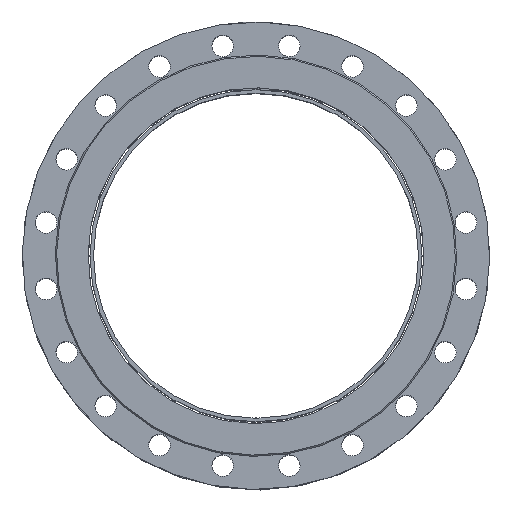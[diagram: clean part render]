
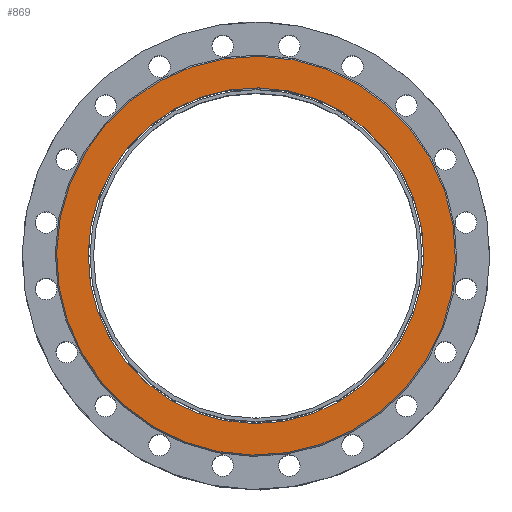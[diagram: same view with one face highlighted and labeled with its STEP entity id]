
A CAD part, top view. The second image highlights one B-rep face of the part: STEP entity #869.
In plain terms, the highlighted planar face has unit normal (0, 0, 1) as drawn and (0, 1, 0) by its records, which use the part's own axes.
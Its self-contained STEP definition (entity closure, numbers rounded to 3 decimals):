
#869 = ADVANCED_FACE( '', ( #1784, #1785 ), #1786, .F. );
#1784 = FACE_OUTER_BOUND( '', #4316, .T. );
#1785 = FACE_BOUND( '', #4317, .T. );
#1786 = PLANE( '', #4318 );
#4316 = EDGE_LOOP( '', ( #7787 ) );
#4317 = EDGE_LOOP( '', ( #7788 ) );
#4318 = AXIS2_PLACEMENT_3D( '', #7789, #7790, #7791 );
#7787 = ORIENTED_EDGE( '', *, *, #9650, .F. );
#7788 = ORIENTED_EDGE( '', *, *, #9651, .T. );
#7789 = CARTESIAN_POINT( '', ( -256.75, 46., 0. ) );
#7790 = DIRECTION( '', ( 0., -1., 0. ) );
#7791 = DIRECTION( '', ( 0., 0., -1. ) );
#9650 = EDGE_CURVE( '', #11106, #11106, #11107, .T. );
#9651 = EDGE_CURVE( '', #11108, #11108, #11109, .T. );
#11106 = VERTEX_POINT( '', #15740 );
#11107 = CIRCLE( '', #15741, 305. );
#11108 = VERTEX_POINT( '', #15742 );
#11109 = CIRCLE( '', #15743, 256.75 );
#15740 = CARTESIAN_POINT( '', ( 0., 46., -305. ) );
#15741 = AXIS2_PLACEMENT_3D( '', #17570, #17571, #17572 );
#15742 = CARTESIAN_POINT( '', ( 0., 46., -256.75 ) );
#15743 = AXIS2_PLACEMENT_3D( '', #17573, #17574, #17575 );
#17570 = CARTESIAN_POINT( '', ( 0., 46., 0. ) );
#17571 = DIRECTION( '', ( 0., -1., 0. ) );
#17572 = DIRECTION( '', ( 0., 0., -1. ) );
#17573 = CARTESIAN_POINT( '', ( 0., 46., 0. ) );
#17574 = DIRECTION( '', ( 0., -1., 0. ) );
#17575 = DIRECTION( '', ( 0., 0., -1. ) );
